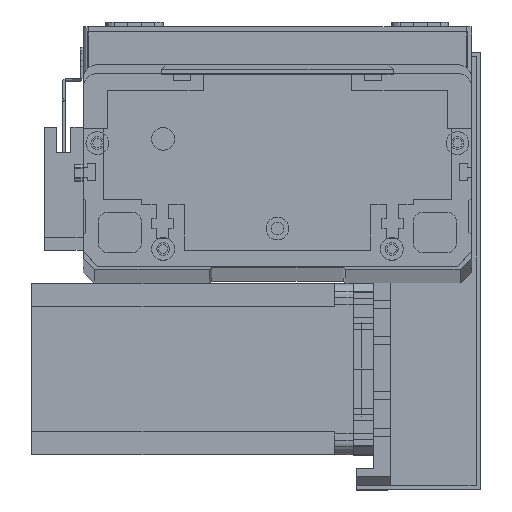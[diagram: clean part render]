
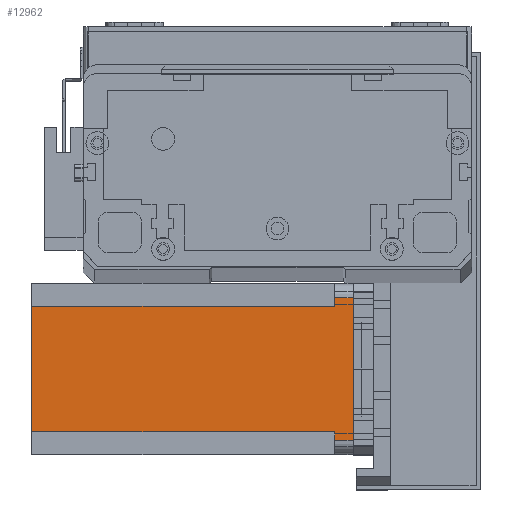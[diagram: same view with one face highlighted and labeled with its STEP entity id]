
A CAD part, top view. The second image highlights one B-rep face of the part: STEP entity #12962.
In plain terms, the highlighted planar face has unit normal (0, 0, 1) as drawn and (0, -1, 0) by its records, which use the part's own axes.
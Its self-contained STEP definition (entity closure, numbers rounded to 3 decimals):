
#365 = VECTOR ( 'NONE', #15114, 1000. ) ;
#468 = ORIENTED_EDGE ( 'NONE', *, *, #25857, .F. ) ;
#718 = LINE ( 'NONE', #24978, #19085 ) ;
#1074 = CARTESIAN_POINT ( 'NONE',  ( 8., 0., -6.5 ) ) ;
#1186 = CARTESIAN_POINT ( 'NONE',  ( 0., 0., -112.5 ) ) ;
#1731 = ORIENTED_EDGE ( 'NONE', *, *, #13453, .F. ) ;
#1778 = VERTEX_POINT ( 'NONE', #7452 ) ;
#2349 = DIRECTION ( 'NONE',  ( 0., 0., 1. ) ) ;
#3139 = CARTESIAN_POINT ( 'NONE',  ( 52., 0., -112.5 ) ) ;
#3474 = DIRECTION ( 'NONE',  ( 1., 0., 0. ) ) ;
#3782 = LINE ( 'NONE', #14702, #23660 ) ;
#3998 = CARTESIAN_POINT ( 'NONE',  ( 5., 0., -6.5 ) ) ;
#4043 = EDGE_CURVE ( 'NONE', #1778, #12427, #26690, .T. ) ;
#5994 = DIRECTION ( 'NONE',  ( 0., -1., 0. ) ) ;
#6301 = VERTEX_POINT ( 'NONE', #8736 ) ;
#6344 = ORIENTED_EDGE ( 'NONE', *, *, #30429, .F. ) ;
#6663 = CARTESIAN_POINT ( 'NONE',  ( 52., 0., -6.5 ) ) ;
#6733 = LINE ( 'NONE', #3139, #365 ) ;
#6868 = ORIENTED_EDGE ( 'NONE', *, *, #28251, .T. ) ;
#7452 = CARTESIAN_POINT ( 'NONE',  ( 8., 0., -112.5 ) ) ;
#7624 = VECTOR ( 'NONE', #3474, 1000. ) ;
#8001 = ORIENTED_EDGE ( 'NONE', *, *, #30049, .T. ) ;
#8285 = CARTESIAN_POINT ( 'NONE',  ( 0., 0., 0. ) ) ;
#8736 = CARTESIAN_POINT ( 'NONE',  ( 55., 0., 0. ) ) ;
#9161 = FACE_OUTER_BOUND ( 'NONE', #21121, .T. ) ;
#9699 = AXIS2_PLACEMENT_3D ( 'NONE', #1186, #5994, #22735 ) ;
#10466 = VECTOR ( 'NONE', #13446, 1000. ) ;
#11925 = VECTOR ( 'NONE', #20994, 1000. ) ;
#12267 = VERTEX_POINT ( 'NONE', #22289 ) ;
#12427 = VERTEX_POINT ( 'NONE', #18125 ) ;
#12962 = ADVANCED_FACE ( 'NONE', ( #9161 ), #13161, .T. ) ;
#13161 = PLANE ( 'NONE',  #9699 ) ;
#13446 = DIRECTION ( 'NONE',  ( -1., 0., 0. ) ) ;
#13453 = EDGE_CURVE ( 'NONE', #31034, #6301, #20355, .T. ) ;
#13481 = DIRECTION ( 'NONE',  ( 1., 0., 0. ) ) ;
#14021 = CARTESIAN_POINT ( 'NONE',  ( 52., 0., -6.5 ) ) ;
#14140 = ORIENTED_EDGE ( 'NONE', *, *, #30874, .F. ) ;
#14157 = CARTESIAN_POINT ( 'NONE',  ( 5., 0., 0. ) ) ;
#14702 = CARTESIAN_POINT ( 'NONE',  ( 55., 0., -112.5 ) ) ;
#15114 = DIRECTION ( 'NONE',  ( 0., 0., -1. ) ) ;
#15465 = DIRECTION ( 'NONE',  ( 0., 0., -1. ) ) ;
#16136 = LINE ( 'NONE', #31016, #28075 ) ;
#16675 = ORIENTED_EDGE ( 'NONE', *, *, #29096, .T. ) ;
#16823 = ORIENTED_EDGE ( 'NONE', *, *, #4043, .T. ) ;
#17301 = VERTEX_POINT ( 'NONE', #14021 ) ;
#17529 = CARTESIAN_POINT ( 'NONE',  ( 0., 0., -112.5 ) ) ;
#18125 = CARTESIAN_POINT ( 'NONE',  ( 52., 0., -112.5 ) ) ;
#19085 = VECTOR ( 'NONE', #15465, 1000. ) ;
#19564 = VECTOR ( 'NONE', #13481, 1000. ) ;
#20355 = LINE ( 'NONE', #8285, #7624 ) ;
#20994 = DIRECTION ( 'NONE',  ( 1., 0., 0. ) ) ;
#21121 = EDGE_LOOP ( 'NONE', ( #6868, #16675, #1731, #8001, #14140, #6344, #16823, #468 ) ) ;
#21972 = LINE ( 'NONE', #6663, #11925 ) ;
#22289 = CARTESIAN_POINT ( 'NONE',  ( 55., 0., -6.5 ) ) ;
#22559 = VERTEX_POINT ( 'NONE', #1074 ) ;
#22735 = DIRECTION ( 'NONE',  ( 0., 0., -1. ) ) ;
#23660 = VECTOR ( 'NONE', #28990, 1000. ) ;
#23958 = LINE ( 'NONE', #25353, #10466 ) ;
#24978 = CARTESIAN_POINT ( 'NONE',  ( 5., 0., -112.5 ) ) ;
#25353 = CARTESIAN_POINT ( 'NONE',  ( 8., 0., -6.5 ) ) ;
#25433 = VERTEX_POINT ( 'NONE', #3998 ) ;
#25857 = EDGE_CURVE ( 'NONE', #17301, #12427, #6733, .T. ) ;
#26690 = LINE ( 'NONE', #17529, #19564 ) ;
#28075 = VECTOR ( 'NONE', #2349, 1000. ) ;
#28251 = EDGE_CURVE ( 'NONE', #17301, #12267, #21972, .T. ) ;
#28990 = DIRECTION ( 'NONE',  ( 0., 0., 1. ) ) ;
#29096 = EDGE_CURVE ( 'NONE', #12267, #6301, #3782, .T. ) ;
#30049 = EDGE_CURVE ( 'NONE', #31034, #25433, #718, .T. ) ;
#30429 = EDGE_CURVE ( 'NONE', #1778, #22559, #16136, .T. ) ;
#30874 = EDGE_CURVE ( 'NONE', #22559, #25433, #23958, .T. ) ;
#31016 = CARTESIAN_POINT ( 'NONE',  ( 8., 0., -112.5 ) ) ;
#31034 = VERTEX_POINT ( 'NONE', #14157 ) ;
